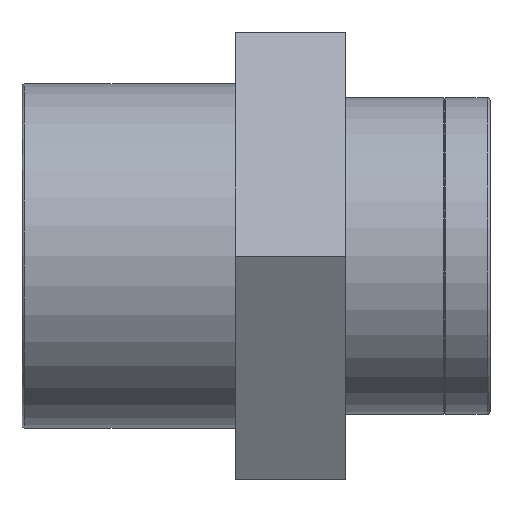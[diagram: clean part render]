
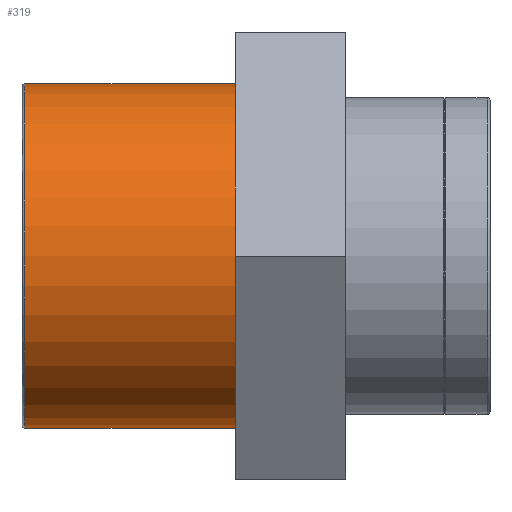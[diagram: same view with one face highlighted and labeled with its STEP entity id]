
A CAD part, top view. The second image highlights one B-rep face of the part: STEP entity #319.
In plain terms, the highlighted cylindrical face has radius 25 mm (diameter 50 mm), a full revolution.
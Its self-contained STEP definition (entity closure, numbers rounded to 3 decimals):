
#56=CYLINDRICAL_SURFACE('',#356,25.);
#80=FACE_BOUND('',#132,.T.);
#98=FACE_OUTER_BOUND('',#131,.T.);
#131=EDGE_LOOP('',(#254));
#132=EDGE_LOOP('',(#255));
#165=CIRCLE('',#355,25.);
#166=CIRCLE('',#357,25.);
#182=VERTEX_POINT('',#509);
#183=VERTEX_POINT('',#512);
#211=EDGE_CURVE('',#182,#182,#165,.T.);
#212=EDGE_CURVE('',#183,#183,#166,.T.);
#254=ORIENTED_EDGE('',*,*,#212,.T.);
#255=ORIENTED_EDGE('',*,*,#211,.F.);
#319=ADVANCED_FACE('',(#98,#80),#56,.T.);
#355=AXIS2_PLACEMENT_3D('',#510,#417,#418);
#356=AXIS2_PLACEMENT_3D('',#511,#419,#420);
#357=AXIS2_PLACEMENT_3D('',#513,#421,#422);
#417=DIRECTION('center_axis',(-1.,0.,0.));
#418=DIRECTION('ref_axis',(0.,1.,0.));
#419=DIRECTION('center_axis',(-1.,0.,0.));
#420=DIRECTION('ref_axis',(0.,-1.,0.));
#421=DIRECTION('center_axis',(-1.,0.,0.));
#422=DIRECTION('ref_axis',(0.,0.,1.));
#509=CARTESIAN_POINT('',(-33.6,-25.,0.));
#510=CARTESIAN_POINT('Origin',(-33.6,0.,0.));
#511=CARTESIAN_POINT('Origin',(-18.5,0.,0.));
#512=CARTESIAN_POINT('',(-3.,-25.,0.));
#513=CARTESIAN_POINT('Origin',(-3.,0.,0.));
